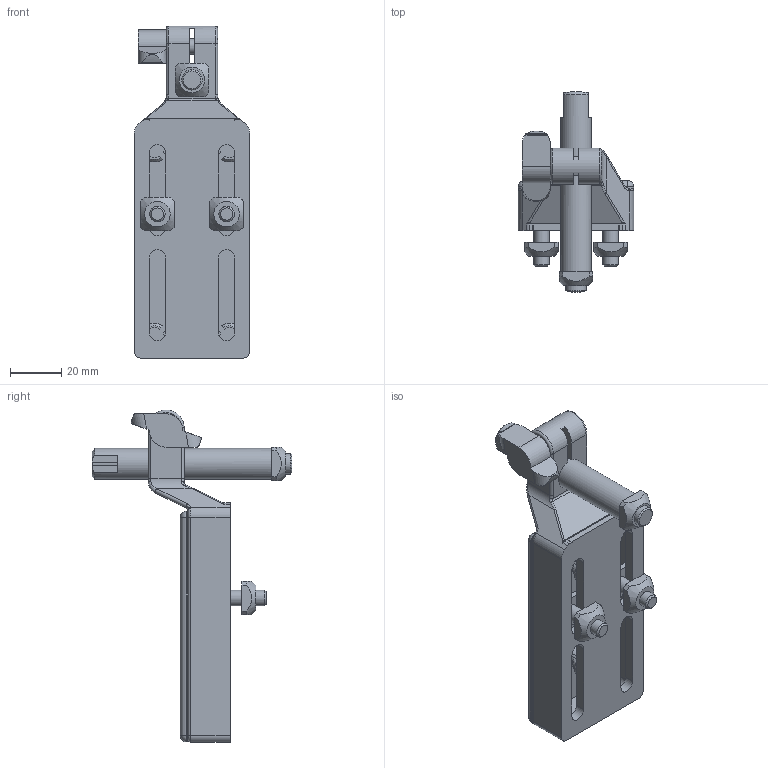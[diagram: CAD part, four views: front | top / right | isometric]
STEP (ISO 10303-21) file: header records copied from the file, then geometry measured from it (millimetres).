
FILE_DESCRIPTION(/* description */ ('LATERAL GUIDE SUPPORT 140'),/* implementation_level */ '2;1');
FILE_NAME(/* name */ '29.5025 LATERAL GUIDE SUPPORT 70.stp',/* time_stamp */ '2024-03-29T15:15:08-04:00',/* author */ ('amoles'),/* organization */ (''),/* preprocessor_version */ 'ST-DEVELOPER v19.2',/* originating_system */ 'Autodesk Inventor 2024',/* authorisation */ '');
FILE_SCHEMA (('AUTOMOTIVE_DESIGN { 1 0 10303 214 3 1 1 }'));
Length unit declared in the file: millimetre
Products named in the file (12): 29.5025 LATERAL GUIDE SUPPORT 70; 29.5028 LATERAL GUIDE SUPPORT 140 BODY NEW; 29.5028 LATERAL GUIDE SUPPORT 140 WINGKNOB; 21.1525 ; 21.1351 ; 21.1240  ; 21.1363; 21.1330; 22.1007/1 ; 22.1007_1 End Cap 45x90 Gray; 22.1017_1 END CAP DOWEL; 29.5025 LATERAL GUIDE SUPPORT 70 ROD
Assembly tree (15 placements, depth 3):
  29.5025 LATERAL GUIDE SUPPORT 70
    29.5028 LATERAL GUIDE SUPPORT 140 BODY NEW
    29.5028 LATERAL GUIDE SUPPORT 140 WINGKNOB
    21.1525 
    21.1351 
    21.1240    x2
    21.1363  x2
    21.1330  x2
    22.1007/1 
      22.1007_1 End Cap 45x90 Gray
      22.1017_1 END CAP DOWEL  x2
    29.5025 LATERAL GUIDE SUPPORT 70 ROD
Bounding box: 45 x 78 x 129.5 mm (x, y, z)
Volume: 56337.6 mm3; surface area: 39820.4 mm2
Topology: 14 solids, 14 shells, 482 faces, 1197 edges, 768 vertices
Faces by surface type: plane 230, cylinder 149, cone 65, bspline 20, torus 14, sphere 4
Full cylindrical faces by diameter (mm): 5 x4, 5.188 x4, 5.5 x2, 6 x9, 6.2 x2, 6.5 x2, 7.5 x2, 8 x2, 10 x4, 12 x1, 12.5 x2
Entity records: 14863 total; most frequent: CARTESIAN_POINT 3811, DIRECTION 2225, ORIENTED_EDGE 2218, EDGE_CURVE 1109, AXIS2_PLACEMENT_3D 838, VERTEX_POINT 713, LINE 549, VECTOR 549
